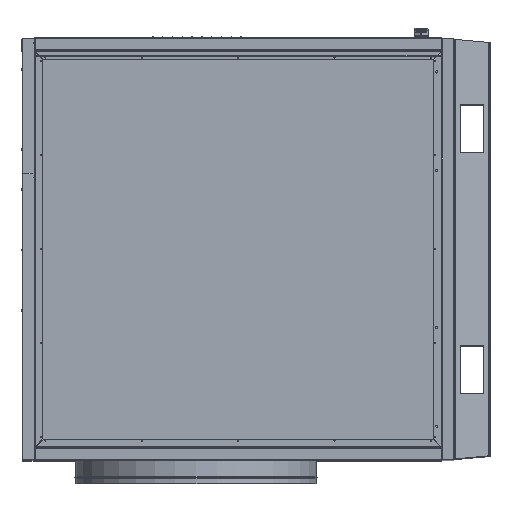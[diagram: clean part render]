
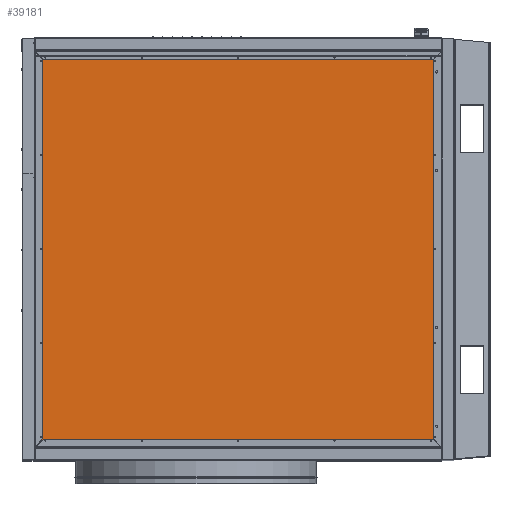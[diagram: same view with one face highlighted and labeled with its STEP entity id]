
A CAD part, top view. The second image highlights one B-rep face of the part: STEP entity #39181.
In plain terms, the highlighted planar face has unit normal (0, 0, 1).
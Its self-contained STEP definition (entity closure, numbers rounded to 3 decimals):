
#1241=PLANE('',#41795);
#2955=FACE_OUTER_BOUND('',#5272,.T.);
#5272=EDGE_LOOP('',(#28416,#28417,#28418,#28419,#28420,#28421,#28422,#28423,
#28424,#28425,#28426,#28427,#28428,#28429,#28430,#28431,#28432,#28433));
#8247=LINE('',#58136,#12365);
#8249=LINE('',#58140,#12367);
#8257=LINE('',#58168,#12375);
#8297=LINE('',#58258,#12415);
#8312=LINE('',#58311,#12430);
#8376=LINE('',#58451,#12494);
#8381=LINE('',#58459,#12499);
#8385=LINE('',#58470,#12503);
#8387=LINE('',#58473,#12505);
#8388=LINE('',#58476,#12506);
#8389=LINE('',#58478,#12507);
#8390=LINE('',#58480,#12508);
#8391=LINE('',#58481,#12509);
#8392=LINE('',#58483,#12510);
#8393=LINE('',#58485,#12511);
#8394=LINE('',#58486,#12512);
#8395=LINE('',#58488,#12513);
#8396=LINE('',#58489,#12514);
#12365=VECTOR('',#46466,1000.);
#12367=VECTOR('',#46468,1000.);
#12375=VECTOR('',#46498,10.);
#12415=VECTOR('',#46558,10.);
#12430=VECTOR('',#46611,10.);
#12494=VECTOR('',#46759,1000.);
#12499=VECTOR('',#46766,1000.);
#12503=VECTOR('',#46776,10.);
#12505=VECTOR('',#46778,10.);
#12506=VECTOR('',#46781,10.);
#12507=VECTOR('',#46782,10.);
#12508=VECTOR('',#46783,10.);
#12509=VECTOR('',#46784,10.);
#12510=VECTOR('',#46785,10.);
#12511=VECTOR('',#46786,10.);
#12512=VECTOR('',#46787,10.);
#12513=VECTOR('',#46788,10.);
#12514=VECTOR('',#46789,10.);
#17886=VERTEX_POINT('',#58133);
#17887=VERTEX_POINT('',#58135);
#17888=VERTEX_POINT('',#58137);
#17889=VERTEX_POINT('',#58139);
#17898=VERTEX_POINT('',#58166);
#17938=VERTEX_POINT('',#58256);
#17957=VERTEX_POINT('',#58309);
#17990=VERTEX_POINT('',#58448);
#17991=VERTEX_POINT('',#58450);
#17993=VERTEX_POINT('',#58457);
#17997=VERTEX_POINT('',#58469);
#17998=VERTEX_POINT('',#58471);
#17999=VERTEX_POINT('',#58475);
#18000=VERTEX_POINT('',#58477);
#18001=VERTEX_POINT('',#58479);
#18002=VERTEX_POINT('',#58482);
#18003=VERTEX_POINT('',#58484);
#18004=VERTEX_POINT('',#58487);
#21762=EDGE_CURVE('',#17887,#17886,#8247,.T.);
#21764=EDGE_CURVE('',#17889,#17888,#8249,.T.);
#21777=EDGE_CURVE('',#17886,#17898,#8257,.T.);
#21823=EDGE_CURVE('',#17898,#17938,#8297,.T.);
#21850=EDGE_CURVE('',#17957,#17938,#8312,.T.);
#21920=EDGE_CURVE('',#17990,#17991,#8376,.F.);
#21925=EDGE_CURVE('',#17957,#17993,#8381,.F.);
#21930=EDGE_CURVE('',#17997,#17991,#8385,.T.);
#21932=EDGE_CURVE('',#17993,#17998,#8387,.T.);
#21933=EDGE_CURVE('',#17999,#17889,#8388,.T.);
#21934=EDGE_CURVE('',#17888,#18000,#8389,.T.);
#21935=EDGE_CURVE('',#18000,#18001,#8390,.T.);
#21936=EDGE_CURVE('',#18001,#17887,#8391,.T.);
#21937=EDGE_CURVE('',#17998,#18002,#8392,.T.);
#21938=EDGE_CURVE('',#18002,#18003,#8393,.T.);
#21939=EDGE_CURVE('',#18003,#17997,#8394,.T.);
#21940=EDGE_CURVE('',#17990,#18004,#8395,.T.);
#21941=EDGE_CURVE('',#18004,#17999,#8396,.T.);
#28416=ORIENTED_EDGE('',*,*,#21933,.T.);
#28417=ORIENTED_EDGE('',*,*,#21764,.T.);
#28418=ORIENTED_EDGE('',*,*,#21934,.T.);
#28419=ORIENTED_EDGE('',*,*,#21935,.T.);
#28420=ORIENTED_EDGE('',*,*,#21936,.T.);
#28421=ORIENTED_EDGE('',*,*,#21762,.T.);
#28422=ORIENTED_EDGE('',*,*,#21777,.T.);
#28423=ORIENTED_EDGE('',*,*,#21823,.T.);
#28424=ORIENTED_EDGE('',*,*,#21850,.F.);
#28425=ORIENTED_EDGE('',*,*,#21925,.T.);
#28426=ORIENTED_EDGE('',*,*,#21932,.T.);
#28427=ORIENTED_EDGE('',*,*,#21937,.T.);
#28428=ORIENTED_EDGE('',*,*,#21938,.T.);
#28429=ORIENTED_EDGE('',*,*,#21939,.T.);
#28430=ORIENTED_EDGE('',*,*,#21930,.T.);
#28431=ORIENTED_EDGE('',*,*,#21920,.F.);
#28432=ORIENTED_EDGE('',*,*,#21940,.T.);
#28433=ORIENTED_EDGE('',*,*,#21941,.T.);
#39181=ADVANCED_FACE('',(#2955),#1241,.T.);
#41795=AXIS2_PLACEMENT_3D('',#58474,#46779,#46780);
#46466=DIRECTION('',(-1.,0.,0.));
#46468=DIRECTION('',(-1.,0.,0.));
#46498=DIRECTION('',(0.707,-0.707,0.));
#46558=DIRECTION('',(0.,-1.,0.));
#46611=DIRECTION('',(0.707,0.707,0.));
#46759=DIRECTION('',(0.,1.,0.));
#46766=DIRECTION('',(0.,1.,0.));
#46776=DIRECTION('',(1.,0.,0.));
#46778=DIRECTION('',(1.,0.,0.));
#46779=DIRECTION('center_axis',(0.,0.,
1.));
#46780=DIRECTION('ref_axis',(0.,1.,0.));
#46781=DIRECTION('',(0.707,0.707,0.));
#46782=DIRECTION('',(-0.707,-0.707,0.));
#46783=DIRECTION('',(-1.,0.,0.));
#46784=DIRECTION('',(-0.707,0.707,0.));
#46785=DIRECTION('',(0.707,0.707,0.));
#46786=DIRECTION('',(1.,0.,0.));
#46787=DIRECTION('',(0.707,-0.707,0.));
#46788=DIRECTION('',(-0.707,0.707,0.));
#46789=DIRECTION('',(0.,1.,0.));
#58133=CARTESIAN_POINT('',(-1667.5,805.5,2155.4));
#58135=CARTESIAN_POINT('',(-1666.5,805.5,2155.4));
#58136=CARTESIAN_POINT('',(-138.2,805.5,2155.4));
#58137=CARTESIAN_POINT('',(-23.5,805.5,2155.4));
#58139=CARTESIAN_POINT('',(-22.5,805.5,2155.4));
#58140=CARTESIAN_POINT('',(-138.2,805.5,2155.4));
#58166=CARTESIAN_POINT('',(-1655.,793.,2155.4));
#58168=CARTESIAN_POINT('',(-1014.175,152.175,2155.4));
#58256=CARTESIAN_POINT('',(-1655.,-783.,2155.4));
#58258=CARTESIAN_POINT('',(-1655.,828.,2155.4));
#58309=CARTESIAN_POINT('',(-1687.,-815.,2155.4));
#58311=CARTESIAN_POINT('',(-1269.772,-397.772,2155.4));
#58448=CARTESIAN_POINT('',(-3.,-815.,2155.4));
#58450=CARTESIAN_POINT('',(-3.,-815.5,2155.4));
#58451=CARTESIAN_POINT('',(-3.,104.25,2155.4));
#58457=CARTESIAN_POINT('',(-1687.,-815.5,2155.4));
#58459=CARTESIAN_POINT('',(-1687.,-452.75,2155.4));
#58469=CARTESIAN_POINT('',(-3.5,-815.5,2155.4));
#58470=CARTESIAN_POINT('',(-912.6,-815.5,2155.4));
#58471=CARTESIAN_POINT('',(-1686.5,-815.5,2155.4));
#58473=CARTESIAN_POINT('',(-912.6,-815.5,2155.4));
#58474=CARTESIAN_POINT('Origin',(-138.2,-597.,2155.4));
#58475=CARTESIAN_POINT('',(-35.,793.,2155.4));
#58476=CARTESIAN_POINT('',(-600.925,227.075,2155.4));
#58477=CARTESIAN_POINT('',(-35.5,793.5,2155.4));
#58478=CARTESIAN_POINT('',(-606.8,222.2,2155.4));
#58479=CARTESIAN_POINT('',(-1654.5,793.5,2155.4));
#58480=CARTESIAN_POINT('',(-913.85,793.5,2155.4));
#58481=CARTESIAN_POINT('',(-729.8,-131.2,2155.4));
#58482=CARTESIAN_POINT('',(-1654.5,-783.5,2155.4));
#58483=CARTESIAN_POINT('',(-1030.8,-159.8,2155.4));
#58484=CARTESIAN_POINT('',(-35.5,-783.5,2155.4));
#58485=CARTESIAN_POINT('',(-69.35,-783.5,2155.4));
#58486=CARTESIAN_POINT('',(-305.8,-513.2,2155.4));
#58487=CARTESIAN_POINT('',(-35.,-783.,2155.4));
#58488=CARTESIAN_POINT('',(-299.925,-518.075,2155.4));
#58489=CARTESIAN_POINT('',(-35.,115.5,2155.4));
